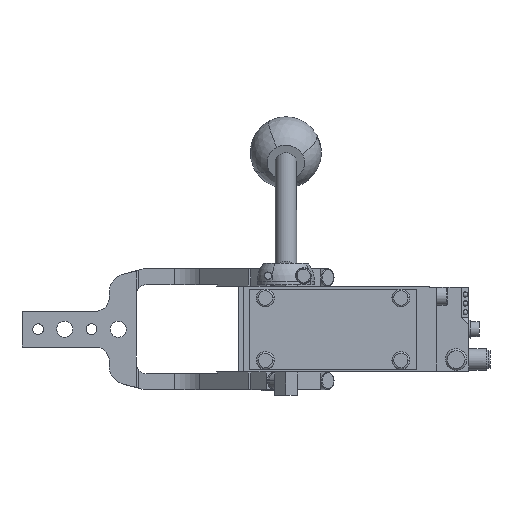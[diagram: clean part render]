
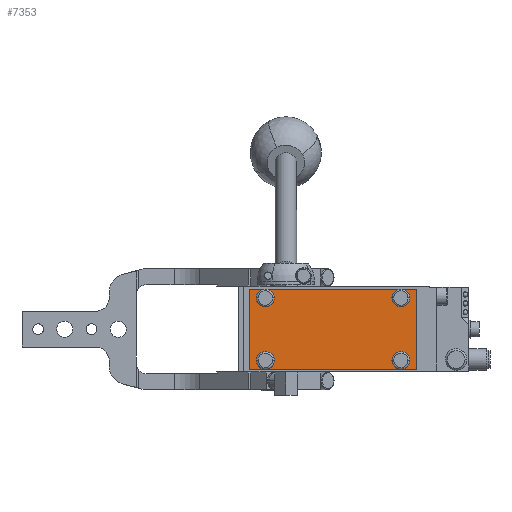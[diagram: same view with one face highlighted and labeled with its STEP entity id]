
A CAD part, left-side view. The second image highlights one B-rep face of the part: STEP entity #7353.
In plain terms, the highlighted planar face has unit normal (-1, 0, 0).
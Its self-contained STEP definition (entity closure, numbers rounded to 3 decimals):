
#6772=AXIS2_PLACEMENT_3D('Circle Axis2P3D',#6770,#6771,$) ;
#6779=AXIS2_PLACEMENT_3D('Circle Axis2P3D',#6777,#6778,$) ;
#6806=AXIS2_PLACEMENT_3D('Circle Axis2P3D',#6804,#6805,$) ;
#6895=AXIS2_PLACEMENT_3D('Circle Axis2P3D',#6893,#6894,$) ;
#6902=AXIS2_PLACEMENT_3D('Circle Axis2P3D',#6900,#6901,$) ;
#6929=AXIS2_PLACEMENT_3D('Circle Axis2P3D',#6927,#6928,$) ;
#7018=AXIS2_PLACEMENT_3D('Circle Axis2P3D',#7016,#7017,$) ;
#7044=AXIS2_PLACEMENT_3D('Circle Axis2P3D',#7042,#7043,$) ;
#7051=AXIS2_PLACEMENT_3D('Circle Axis2P3D',#7049,#7050,$) ;
#7141=AXIS2_PLACEMENT_3D('Circle Axis2P3D',#7139,#7140,$) ;
#7167=AXIS2_PLACEMENT_3D('Circle Axis2P3D',#7165,#7166,$) ;
#7174=AXIS2_PLACEMENT_3D('Circle Axis2P3D',#7172,#7173,$) ;
#7282=AXIS2_PLACEMENT_3D('Plane Axis2P3D',#7279,#7280,#7281) ;
#6765=CARTESIAN_POINT('Vertex',(-166.5,-73.5,17.5)) ;
#6770=CARTESIAN_POINT('Axis2P3D Location',(-166.5,-68.5,17.5)) ;
#6774=CARTESIAN_POINT('Vertex',(-166.5,-68.5,22.5)) ;
#6777=CARTESIAN_POINT('Axis2P3D Location',(-166.5,-68.5,17.5)) ;
#6781=CARTESIAN_POINT('Vertex',(-166.5,-63.5,17.5)) ;
#6804=CARTESIAN_POINT('Axis2P3D Location',(-166.5,-68.5,17.5)) ;
#6888=CARTESIAN_POINT('Vertex',(-166.5,2.5,17.5)) ;
#6893=CARTESIAN_POINT('Axis2P3D Location',(-166.5,7.5,17.5)) ;
#6897=CARTESIAN_POINT('Vertex',(-166.5,7.5,22.5)) ;
#6900=CARTESIAN_POINT('Axis2P3D Location',(-166.5,7.5,17.5)) ;
#6904=CARTESIAN_POINT('Vertex',(-166.5,12.5,17.5)) ;
#6927=CARTESIAN_POINT('Axis2P3D Location',(-166.5,7.5,17.5)) ;
#7011=CARTESIAN_POINT('Vertex',(-166.5,2.5,-17.5)) ;
#7016=CARTESIAN_POINT('Axis2P3D Location',(-166.5,7.5,-17.5)) ;
#7020=CARTESIAN_POINT('Vertex',(-166.5,12.5,-17.5)) ;
#7042=CARTESIAN_POINT('Axis2P3D Location',(-166.5,7.5,-17.5)) ;
#7046=CARTESIAN_POINT('Vertex',(-166.5,7.5,-22.5)) ;
#7049=CARTESIAN_POINT('Axis2P3D Location',(-166.5,7.5,-17.5)) ;
#7134=CARTESIAN_POINT('Vertex',(-166.5,-73.5,-17.5)) ;
#7139=CARTESIAN_POINT('Axis2P3D Location',(-166.5,-68.5,-17.5)) ;
#7143=CARTESIAN_POINT('Vertex',(-166.5,-63.5,-17.5)) ;
#7165=CARTESIAN_POINT('Axis2P3D Location',(-166.5,-68.5,-17.5)) ;
#7169=CARTESIAN_POINT('Vertex',(-166.5,-68.5,-22.5)) ;
#7172=CARTESIAN_POINT('Axis2P3D Location',(-166.5,-68.5,-17.5)) ;
#7253=CARTESIAN_POINT('Line Origine',(-166.5,16.5,0.)) ;
#7257=CARTESIAN_POINT('Vertex',(-166.5,16.5,-22.5)) ;
#7259=CARTESIAN_POINT('Vertex',(-166.5,16.5,22.5)) ;
#7279=CARTESIAN_POINT('Axis2P3D Location',(-166.5,0.,0.)) ;
#7284=CARTESIAN_POINT('Line Origine',(-166.5,-30.5,22.5)) ;
#7289=CARTESIAN_POINT('Line Origine',(-166.5,12.,22.5)) ;
#7294=CARTESIAN_POINT('Line Origine',(-166.5,12.,-22.5)) ;
#7299=CARTESIAN_POINT('Line Origine',(-166.5,-30.5,-22.5)) ;
#7304=CARTESIAN_POINT('Line Origine',(-166.5,-73.,-22.5)) ;
#7308=CARTESIAN_POINT('Vertex',(-166.5,-77.5,-22.5)) ;
#7311=CARTESIAN_POINT('Line Origine',(-166.5,-77.5,0.)) ;
#7315=CARTESIAN_POINT('Vertex',(-166.5,-77.5,22.5)) ;
#7318=CARTESIAN_POINT('Line Origine',(-166.5,-73.,22.5)) ;
#6771=DIRECTION('Axis2P3D Direction',(1.,-0.,0.)) ;
#6778=DIRECTION('Axis2P3D Direction',(1.,-0.,0.)) ;
#6805=DIRECTION('Axis2P3D Direction',(1.,-0.,0.)) ;
#6894=DIRECTION('Axis2P3D Direction',(1.,-0.,0.)) ;
#6901=DIRECTION('Axis2P3D Direction',(1.,-0.,0.)) ;
#6928=DIRECTION('Axis2P3D Direction',(1.,-0.,0.)) ;
#7017=DIRECTION('Axis2P3D Direction',(1.,-0.,0.)) ;
#7043=DIRECTION('Axis2P3D Direction',(1.,-0.,0.)) ;
#7050=DIRECTION('Axis2P3D Direction',(1.,-0.,0.)) ;
#7140=DIRECTION('Axis2P3D Direction',(1.,-0.,0.)) ;
#7166=DIRECTION('Axis2P3D Direction',(1.,-0.,0.)) ;
#7173=DIRECTION('Axis2P3D Direction',(1.,-0.,0.)) ;
#7254=DIRECTION('Vector Direction',(0.,0.,-1.)) ;
#7280=DIRECTION('Axis2P3D Direction',(1.,0.,-0.)) ;
#7281=DIRECTION('Axis2P3D XDirection',(0.,0.,1.)) ;
#7285=DIRECTION('Vector Direction',(0.,1.,0.)) ;
#7290=DIRECTION('Vector Direction',(0.,1.,0.)) ;
#7295=DIRECTION('Vector Direction',(0.,-1.,0.)) ;
#7300=DIRECTION('Vector Direction',(0.,-1.,0.)) ;
#7305=DIRECTION('Vector Direction',(0.,-1.,0.)) ;
#7312=DIRECTION('Vector Direction',(0.,0.,1.)) ;
#7319=DIRECTION('Vector Direction',(0.,1.,0.)) ;
#7255=VECTOR('Line Direction',#7254,1.) ;
#7286=VECTOR('Line Direction',#7285,1.) ;
#7291=VECTOR('Line Direction',#7290,1.) ;
#7296=VECTOR('Line Direction',#7295,1.) ;
#7301=VECTOR('Line Direction',#7300,1.) ;
#7306=VECTOR('Line Direction',#7305,1.) ;
#7313=VECTOR('Line Direction',#7312,1.) ;
#7320=VECTOR('Line Direction',#7319,1.) ;
#7324=ORIENTED_EDGE('',*,*,#7288,.F.) ;
#7325=ORIENTED_EDGE('',*,*,#7293,.F.) ;
#7326=ORIENTED_EDGE('',*,*,#7261,.F.) ;
#7327=ORIENTED_EDGE('',*,*,#7298,.F.) ;
#7328=ORIENTED_EDGE('',*,*,#7303,.F.) ;
#7329=ORIENTED_EDGE('',*,*,#7310,.F.) ;
#7330=ORIENTED_EDGE('',*,*,#7317,.F.) ;
#7331=ORIENTED_EDGE('',*,*,#7322,.F.) ;
#7334=ORIENTED_EDGE('',*,*,#7171,.T.) ;
#7335=ORIENTED_EDGE('',*,*,#7145,.T.) ;
#7336=ORIENTED_EDGE('',*,*,#7176,.T.) ;
#7339=ORIENTED_EDGE('',*,*,#7048,.T.) ;
#7340=ORIENTED_EDGE('',*,*,#7022,.T.) ;
#7341=ORIENTED_EDGE('',*,*,#7053,.T.) ;
#7344=ORIENTED_EDGE('',*,*,#6899,.T.) ;
#7345=ORIENTED_EDGE('',*,*,#6931,.T.) ;
#7346=ORIENTED_EDGE('',*,*,#6906,.T.) ;
#7349=ORIENTED_EDGE('',*,*,#6776,.T.) ;
#7350=ORIENTED_EDGE('',*,*,#6808,.T.) ;
#7351=ORIENTED_EDGE('',*,*,#6783,.T.) ;
#7337=FACE_BOUND('',#7333,.T.) ;
#7342=FACE_BOUND('',#7338,.T.) ;
#7347=FACE_BOUND('',#7343,.T.) ;
#7352=FACE_BOUND('',#7348,.T.) ;
#7353=ADVANCED_FACE('PartBody',(#7332,#7337,#7342,#7347,#7352),#7283,.F.) ;
#6773=CIRCLE('generated circle',#6772,5.) ;
#6780=CIRCLE('generated circle',#6779,5.) ;
#6807=CIRCLE('generated circle',#6806,5.) ;
#6896=CIRCLE('generated circle',#6895,5.) ;
#6903=CIRCLE('generated circle',#6902,5.) ;
#6930=CIRCLE('generated circle',#6929,5.) ;
#7019=CIRCLE('generated circle',#7018,5.) ;
#7045=CIRCLE('generated circle',#7044,5.) ;
#7052=CIRCLE('generated circle',#7051,5.) ;
#7142=CIRCLE('generated circle',#7141,5.) ;
#7168=CIRCLE('generated circle',#7167,5.) ;
#7175=CIRCLE('generated circle',#7174,5.) ;
#6776=EDGE_CURVE('',#6775,#6766,#6773,.T.) ;
#6783=EDGE_CURVE('',#6782,#6775,#6780,.T.) ;
#6808=EDGE_CURVE('',#6766,#6782,#6807,.T.) ;
#6899=EDGE_CURVE('',#6898,#6889,#6896,.T.) ;
#6906=EDGE_CURVE('',#6905,#6898,#6903,.T.) ;
#6931=EDGE_CURVE('',#6889,#6905,#6930,.T.) ;
#7022=EDGE_CURVE('',#7021,#7012,#7019,.T.) ;
#7048=EDGE_CURVE('',#7047,#7021,#7045,.T.) ;
#7053=EDGE_CURVE('',#7012,#7047,#7052,.T.) ;
#7145=EDGE_CURVE('',#7144,#7135,#7142,.T.) ;
#7171=EDGE_CURVE('',#7170,#7144,#7168,.T.) ;
#7176=EDGE_CURVE('',#7135,#7170,#7175,.T.) ;
#7261=EDGE_CURVE('',#7258,#7260,#7256,.F.) ;
#7288=EDGE_CURVE('',#6898,#6775,#7287,.F.) ;
#7293=EDGE_CURVE('',#7260,#6898,#7292,.F.) ;
#7298=EDGE_CURVE('',#7047,#7258,#7297,.F.) ;
#7303=EDGE_CURVE('',#7170,#7047,#7302,.F.) ;
#7310=EDGE_CURVE('',#7309,#7170,#7307,.F.) ;
#7317=EDGE_CURVE('',#7316,#7309,#7314,.F.) ;
#7322=EDGE_CURVE('',#6775,#7316,#7321,.F.) ;
#7323=EDGE_LOOP('',(#7324,#7325,#7326,#7327,#7328,#7329,#7330,#7331)) ;
#7333=EDGE_LOOP('',(#7334,#7335,#7336)) ;
#7338=EDGE_LOOP('',(#7339,#7340,#7341)) ;
#7343=EDGE_LOOP('',(#7344,#7345,#7346)) ;
#7348=EDGE_LOOP('',(#7349,#7350,#7351)) ;
#7332=FACE_OUTER_BOUND('',#7323,.T.) ;
#7256=LINE('Line',#7253,#7255) ;
#7287=LINE('Line',#7284,#7286) ;
#7292=LINE('Line',#7289,#7291) ;
#7297=LINE('Line',#7294,#7296) ;
#7302=LINE('Line',#7299,#7301) ;
#7307=LINE('Line',#7304,#7306) ;
#7314=LINE('Line',#7311,#7313) ;
#7321=LINE('Line',#7318,#7320) ;
#7283=PLANE('Plane',#7282) ;
#6766=VERTEX_POINT('',#6765) ;
#6775=VERTEX_POINT('',#6774) ;
#6782=VERTEX_POINT('',#6781) ;
#6889=VERTEX_POINT('',#6888) ;
#6898=VERTEX_POINT('',#6897) ;
#6905=VERTEX_POINT('',#6904) ;
#7012=VERTEX_POINT('',#7011) ;
#7021=VERTEX_POINT('',#7020) ;
#7047=VERTEX_POINT('',#7046) ;
#7135=VERTEX_POINT('',#7134) ;
#7144=VERTEX_POINT('',#7143) ;
#7170=VERTEX_POINT('',#7169) ;
#7258=VERTEX_POINT('',#7257) ;
#7260=VERTEX_POINT('',#7259) ;
#7309=VERTEX_POINT('',#7308) ;
#7316=VERTEX_POINT('',#7315) ;
